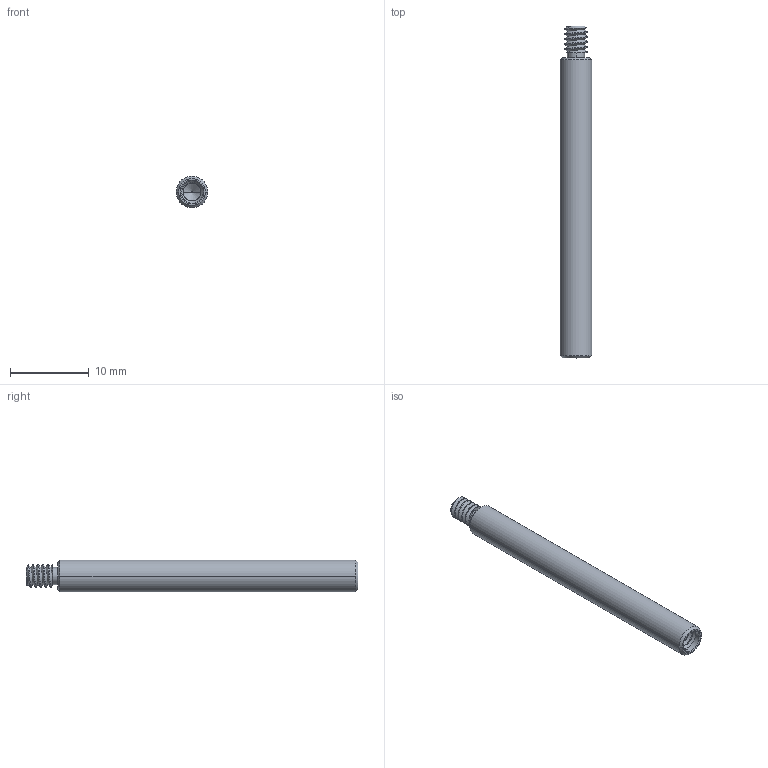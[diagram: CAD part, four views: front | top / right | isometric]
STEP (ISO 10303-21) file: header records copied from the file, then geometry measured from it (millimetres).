
FILE_DESCRIPTION((''),'2;1');
FILE_NAME('SR15','2022-11-15T',('daizh'),(''),'CREO PARAMETRIC BY PTC INC, 2018360','CREO PARAMETRIC BY PTC INC, 2018360','');
FILE_SCHEMA(('CONFIG_CONTROL_DESIGN'));
Length unit declared in the file: millimetre
Products named in the file (1): SR15
Bounding box: 4 x 42.1 x 4 mm (x, y, z)
Volume: 456.6 mm3; surface area: 621.8 mm2
Topology: 1 solids, 1 shells, 64 faces, 164 edges, 105 vertices
Faces by surface type: cylinder 35, bspline 14, cone 10, plane 5
Entity records: 4583 total; most frequent: CARTESIAN_POINT 3184, ORIENTED_EDGE 328, DIRECTION 202, EDGE_CURVE 164, VERTEX_POINT 105, B_SPLINE_CURVE_WITH_KNOTS 86, AXIS2_PLACEMENT_3D 74, EDGE_LOOP 67
